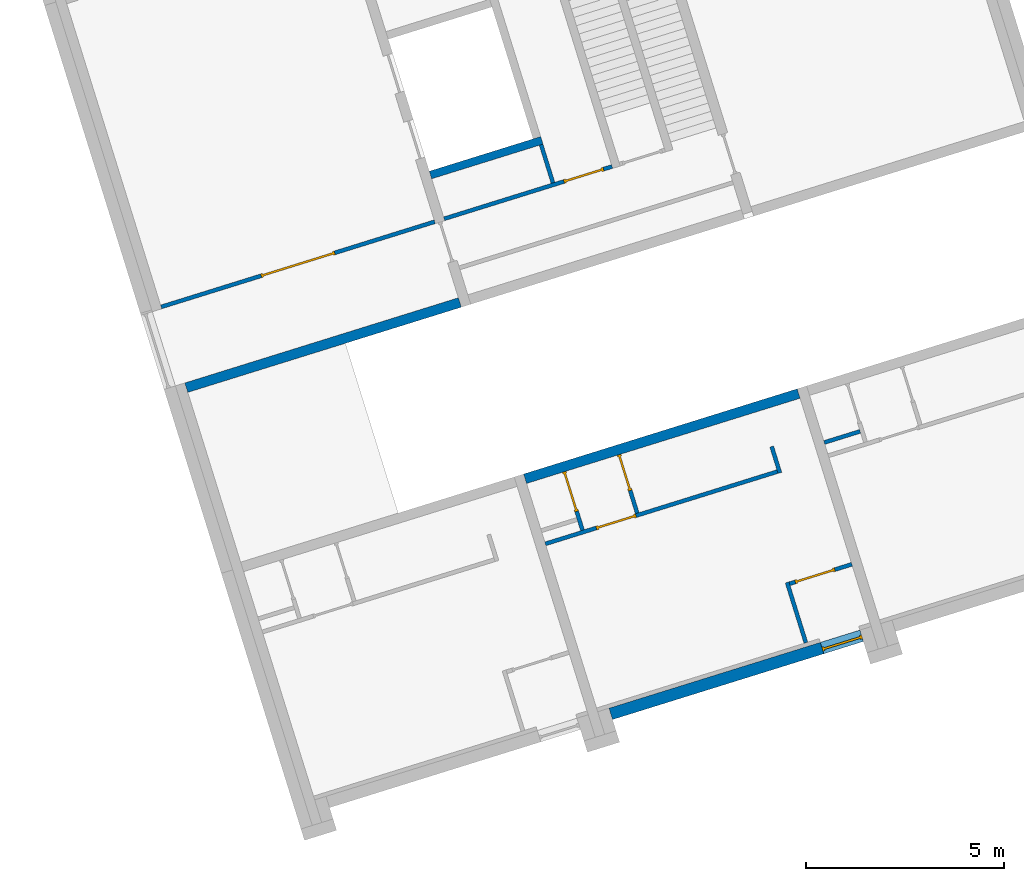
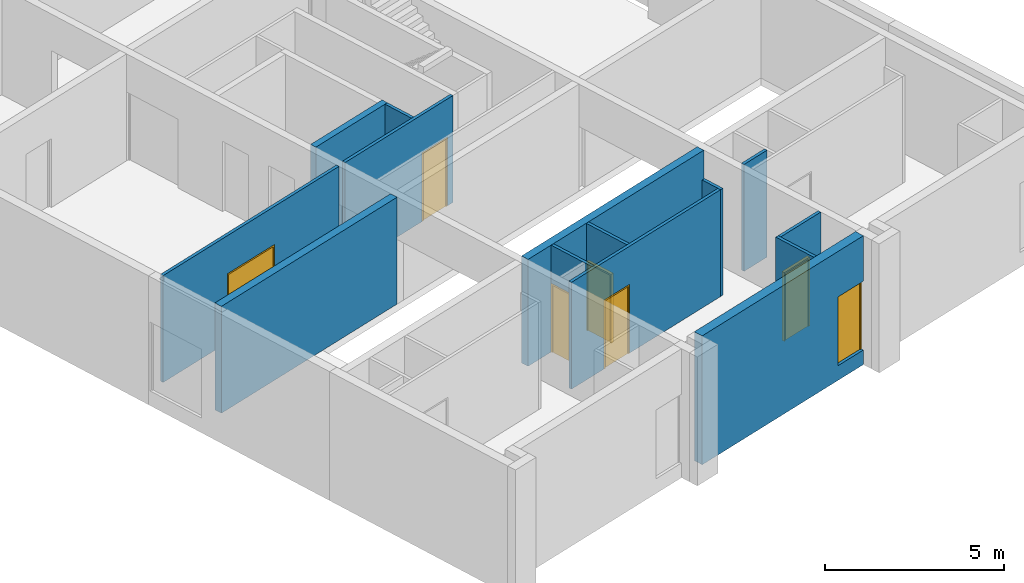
# One storey, part 2 of 10: 14 walls, 7 doors, 9 openings.
"""IFC4 building model written with IfcOpenShell, lengths in metres."""

from ifc_helpers import new_model, entity, si_unit, converted_unit, direction, frame, origin, place, context, subcontext, project, spatial, indexed_curve, outline, extrude, polygons, source, transform, mapped, material, constituent, constituent_set, type_object, type_shapes, element, fill, save


model = new_model("IFC4")

# Units and contexts
model_context = context("Model", 3, precision=1e-05, world=origin(), true_north=direction((6.12323399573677e-17, 1.0)))
body_context = subcontext(model_context, "Body", "Model", "MODEL_VIEW")
ifc_project = project(units=[si_unit("LENGTHUNIT", "METRE"), si_unit("AREAUNIT", "SQUARE_METRE"), si_unit("VOLUMEUNIT", "CUBIC_METRE"), converted_unit("PLANEANGLEUNIT", "DEGREE", entity("IfcPlaneAngleMeasure", 0.0174532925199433), si_unit("PLANEANGLEUNIT", "RADIAN"), dimensions=[0, 0, 0, 0, 0, 0, 0])], contexts=[model_context])

# Site, building, storey
site_placement = place(None, frame((13.1347999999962, 11.9886000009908, 0.0), z_axis=(0.0, 0.0, 1.0), x_axis=(0.954770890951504, 0.297342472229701, 0.0)))
site = spatial("IfcSite", under=ifc_project, at=site_placement, Name="Schiehaven", CompositionType="ELEMENT")
building_placement = place(site_placement, origin())
building = spatial("IfcBuilding", under=site, at=building_placement, Name="VORM huis", CompositionType="ELEMENT")
storey_placement = place(building_placement, origin())
storey = spatial("IfcBuildingStorey", under=building, at=storey_placement, Name="00 begane grond", CompositionType="ELEMENT", Elevation=0.0)

# Wall, opening, door
ifc_material_1 = material(Name="ntb_ntb_ntb", Category="Miscellaneous")
wall_type_1 = type_object("IfcWallType", Name="Basic Wall: 300mm_gen", PredefinedType="STANDARD")
wall_1_placement = place(storey_placement, frame((19.5750000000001, 0.824999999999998, -0.5), z_axis=(0.0, 0.0, 1.0), x_axis=(-1.0, 0.0, 0.0)))
wall_1 = element("IfcWall", 1, at=wall_1_placement, inside=storey, type_object=wall_type_1, material=ifc_material_1, Name="Gevelwand", ObjectType="Wand", PredefinedType="NOTDEFINED", context=body_context, shape_type="Tessellation", body=[
    polygons([(-1.23674201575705e-15, -0.15, 0.0), (6.64999999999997, -0.15, 0.0), (6.64999999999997, -0.15, 4.4), (-1.23674201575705e-15, -0.15, 4.4), (-1.23674201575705e-15, -0.15, 2.84999999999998), (1.04999999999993, -0.15, 2.84999999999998), (1.04999999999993, -0.15, 0.5), (-1.23674201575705e-15, -0.15, 0.5), (6.64999999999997, 0.15, 0.0), (-2.18896555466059e-15, 0.15, 0.0), (-2.1889655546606e-15, 0.15, 0.5), (1.04999999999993, 0.15, 0.5), (1.04999999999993, 0.15, 2.84999999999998), (-2.1889655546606e-15, 0.15, 2.84999999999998), (-2.18896555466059e-15, 0.15, 4.4), (6.64999999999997, 0.15, 4.4)], [[[1, 2, 3, 4, 5, 6, 7, 8]], [[9, 10, 11, 12, 13, 14, 15, 16]], [[2, 1, 10, 9]], [[4, 3, 16, 15]], [[10, 1, 8, 11]], [[3, 2, 9, 16]], [[6, 13, 12, 7]], [[7, 12, 11, 8]], [[13, 6, 5, 14]], [[4, 15, 14, 5]]], closed=True),
])
opening_1_placement = place(wall_1_placement, frame((0.0, -0.15, 0.5)))
opening_1 = element("IfcOpeningElement", 2, at=opening_1_placement, cuts=wall_1, Name="Woningtoegangsdeur", PredefinedType="OPENING", context=body_context, shape_type="SweptSolid", body=[
    extrude(outline(indexed_curve([(2.34999999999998, 1.05), (0.0, 1.05), (0.0, 1.62430069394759e-15), (2.34999999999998, 1.62430069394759e-15), (2.34999999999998, 1.05)], self_intersect=False)), frame((0.0, 0.0, 0.0), z_axis=(0.0, 1.0, 0.0), x_axis=(0.0, 0.0, 1.0)), (0.0, 0.0, 1.0), 0.3),
])
ifc_material_2 = material(Name="PD_a_buitenwandopeningen", Category="Miscellaneous")
ifc_constituent_1 = constituent(ifc_material_2, Name="PD_a_buitenwandopeningen", Category="Miscellaneous")
ifc_material_3 = material(Name="metaal_aluminium_ntb", Category="Miscellaneous")
ifc_constituent_2 = constituent(ifc_material_3, Name="metaal_aluminium_ntb", Category="Miscellaneous")
ifc_constituent_set_1 = constituent_set(constituents=[ifc_constituent_1, ifc_constituent_2])
door_type_1 = type_object("IfcDoorType", Name="31_DO_buitendeur enkel:woningtoegangsdeur", OperationType="REVOLVING", PredefinedType="DOOR")
shared_shape_1 = source(origin(), body_context, "Body", "SweptSolid", [
    extrude(outline(indexed_curve([(-1.16249999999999, -0.525000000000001), (1.18749999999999, -0.525), (1.18749999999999, 0.525000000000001), (-1.16249999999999, 0.525), (-1.16249999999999, 0.475), (1.13749999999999, 0.475), (1.13749999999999, -0.475), (-1.16249999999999, -0.475), (-1.16249999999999, -0.525000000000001)], self_intersect=False)), frame((0.525000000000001, 0.130000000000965, 1.16249999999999), z_axis=(0.0, 1.0, 0.0), x_axis=(0.0, 0.0, 1.0)), (0.0, 0.0, 1.0), 0.1),
    extrude(outline(indexed_curve([(-0.025, -0.475), (0.025, -0.475), (0.025, 0.475), (-0.025, 0.475), (-0.025, -0.475)], self_intersect=False)), frame((0.525000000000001, 0.180000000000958, 0.0), z_axis=(0.0, 0.0, 1.0), x_axis=(0.0, 1.0, 0.0)), (0.0, 0.0, 1.0), 2.29999999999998),
])
type_shapes(door_type_1, [shared_shape_1])
door_1_placement = place(opening_1_placement, origin())
door_1 = element("IfcDoor", 3, at=door_1_placement, inside=storey, type_object=door_type_1, material=ifc_constituent_set_1, Name="Woningtoegangsdeur", ObjectType="Deur", OperationType="REVOLVING", OverallHeight=2.34999999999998, OverallWidth=1.05, PredefinedType="DOOR", context=body_context, shape_type="MappedRepresentation", body=[
    mapped(shared_shape_1, transform((0.0, 0.0, 0.0), scale=1.0)),
])
fill(opening_1, door_1)

# Walls
ifc_material_4 = material(Name="beton_gewapend_prefab-element", Category="Miscellaneous")
wall_type_2 = type_object("IfcWallType", Name="Basic Wall:28_WA_skelet_wand 200mm_gen", PredefinedType="STANDARD")
wall_2_placement = place(storey_placement, frame((12.6250000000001, 15.2, 0.0)))
element("IfcWall", 4, at=wall_2_placement, inside=storey, type_object=wall_type_2, material=ifc_material_4, Name="Constructieve wand", ObjectType="Wand", PredefinedType="NOTDEFINED", context=body_context, shape_type="SweptSolid", body=[
    extrude(outline(indexed_curve([(2.95, 0.100000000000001), (-3.51397851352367e-16, 0.100000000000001), (3.51397851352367e-16, -0.100000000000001), (2.95, -0.100000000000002), (2.95, 0.100000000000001)], self_intersect=False)), origin(), (0.0, 0.0, 1.0), 3.65),
])
wall_type_3 = type_object("IfcWallType", Name="Basic Wall:22_WA_afbouw_binnenwand 250mm_gen", PredefinedType="STANDARD")
wall_3_placement = place(storey_placement, frame((12.3750000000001, 11.9, 0.0), z_axis=(0.0, 0.0, 1.0), x_axis=(-1.0, 0.0, 0.0)))
element("IfcWall", 5, at=wall_3_placement, inside=storey, type_object=wall_type_3, material=ifc_material_1, Name="Binnenwand", ObjectType="Wand", PredefinedType="NOTDEFINED", context=body_context, shape_type="SweptSolid", body=[
    extrude(outline(indexed_curve([(7.24999999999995, 0.125), (-1.96773443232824e-16, 0.125), (1.96773443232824e-16, -0.125), (7.24999999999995, -0.124999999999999), (7.24999999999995, 0.125)], self_intersect=False)), origin(), (0.0, 0.0, 1.0), 3.65),
])
wall_4_placement = place(storey_placement, frame((12.625, 7.15000000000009, 0.0)))
element("IfcWall", 6, at=wall_4_placement, inside=storey, type_object=wall_type_3, material=ifc_material_1, Name="Binnenwand", ObjectType="Wand", PredefinedType="NOTDEFINED", context=body_context, shape_type="SweptSolid", body=[
    extrude(outline(indexed_curve([(7.24999999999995, 0.124999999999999), (-1.92055213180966e-16, 0.125), (1.92055213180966e-16, -0.125), (7.24999999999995, -0.125000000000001), (7.24999999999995, 0.124999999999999)], self_intersect=False)), origin(), (0.0, 0.0, 1.0), 3.65),
])

# Wall, opening, door
wall_type_4 = type_object("IfcWallType", Name="Basic Wall:22_WA_afbouw_binnenwand 100mm_gen", PredefinedType="STANDARD")
wall_5_placement = place(storey_placement, frame((12.3750000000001, 14.0400000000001, 0.0), z_axis=(0.0, 0.0, 1.0), x_axis=(-1.0, 0.0, 0.0)))
wall_5 = element("IfcWall", 7, at=wall_5_placement, inside=storey, type_object=wall_type_4, material=ifc_material_1, Name="Binnenwand", ObjectType="Wand", PredefinedType="NOTDEFINED", context=body_context, shape_type="Tessellation", body=[
    polygons([(4.59999999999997, -0.0499999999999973, 2.34999999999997), (4.59999999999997, -0.0499999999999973, 0.0), (7.24999999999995, -0.0499999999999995, 0.0), (7.24999999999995, -0.0499999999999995, 3.65), (-6.12380031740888e-16, -0.0500000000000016, 3.65), (-6.12380031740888e-16, -0.0500000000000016, 0.0), (2.64999999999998, -0.0499999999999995, 0.0), (2.64999999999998, -0.0499999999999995, 2.34999999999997), (7.24999999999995, 0.0499999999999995, 0.0), (4.59999999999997, 0.0500000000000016, 0.0), (4.59999999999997, 0.0500000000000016, 2.34999999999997), (2.64999999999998, 0.0499999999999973, 2.34999999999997), (2.64999999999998, 0.0499999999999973, 0.0), (-7.61741015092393e-16, 0.0499999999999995, 0.0), (-7.61741015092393e-16, 0.0499999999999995, 3.65), (7.24999999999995, 0.0499999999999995, 3.65)], [[[1, 2, 3, 4, 5, 6, 7, 8]], [[9, 10, 11, 12, 13, 14, 15, 16]], [[7, 6, 14, 13]], [[4, 3, 9, 16]], [[5, 4, 16, 15]], [[6, 5, 15, 14]], [[13, 12, 8, 7]], [[11, 10, 2, 1]], [[12, 11, 1, 8]], [[3, 2, 10, 9]]], closed=True),
])
opening_2_placement = place(wall_5_placement, frame((2.64999999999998, -0.0500000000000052, 0.0)))
opening_2 = element("IfcOpeningElement", 8, at=opening_2_placement, cuts=wall_5, Name="Vluchtdeur", PredefinedType="OPENING", context=body_context, shape_type="SweptSolid", body=[
    extrude(outline(indexed_curve([(2.34999999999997, -2.12281255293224e-30), (2.34999999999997, 1.95), (0.0, 1.95), (0.0, -2.12281255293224e-30), (2.34999999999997, -2.12281255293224e-30)], self_intersect=False)), frame((0.0, 0.0, 0.0), z_axis=(0.0, 1.0, 0.0), x_axis=(0.0, 0.0, 1.0)), (0.0, 0.0, 1.0), 0.1),
])
ifc_material_5 = material(Name="PD_a_binnenwandopeningen", Category="Miscellaneous")
ifc_constituent_3 = constituent(ifc_material_5, Name="PD_a_binnenwandopeningen", Category="Miscellaneous")
ifc_constituent_4 = constituent(ifc_material_3, Name="metaal_aluminium_ntb", Category="Miscellaneous")
ifc_constituent_set_2 = constituent_set(constituents=[ifc_constituent_3, ifc_constituent_4])
door_type_2 = type_object("IfcDoorType", Name="32_DO_binnendeur dubbel:binnendeur zelfsluitend 30min", OperationType="NOTDEFINED", PredefinedType="DOOR")
shared_shape_2 = source(origin(), body_context, "Body", "SweptSolid", [
    extrude(outline(indexed_curve([(0.925, -1.16249999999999), (0.975, -1.16249999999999), (0.975, 1.18749999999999), (-0.975, 1.18749999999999), (-0.975, -1.16249999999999), (-0.925, -1.16249999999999), (-0.925, 1.13749999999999), (0.925, 1.13749999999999), (0.925, -1.16249999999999)], self_intersect=False)), frame((0.975000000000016, 0.100000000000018, 1.16249999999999), z_axis=(0.0, -1.0, 0.0), x_axis=(1.0, 0.0, 0.0)), (0.0, 0.0, 1.0), 0.1),
    extrude(outline(indexed_curve([(-0.462499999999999, -0.025), (0.462499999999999, -0.025), (0.462499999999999, 0.025), (-0.462499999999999, 0.025), (-0.462499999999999, -0.025)], self_intersect=False)), frame((0.512500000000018, 0.0499999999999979, 0.0)), (0.0, 0.0, 1.0), 2.29999999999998),
    extrude(outline(indexed_curve([(-0.4625, -0.025), (0.4625, -0.025), (0.4625, 0.025), (-0.4625, 0.025), (-0.4625, -0.025)], self_intersect=False)), frame((1.43750000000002, 0.050000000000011, 0.0)), (0.0, 0.0, 1.0), 2.29999999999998),
])
door_2_placement = place(opening_2_placement, origin())
door_2 = element("IfcDoor", 9, at=door_2_placement, inside=storey, type_object=door_type_2, material=ifc_constituent_set_2, Name="Vluchtdeur", ObjectType="Deur", OperationType="NOTDEFINED", OverallHeight=2.34999999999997, OverallWidth=1.95, PredefinedType="DOOR", context=body_context, shape_type="MappedRepresentation", body=[
    mapped(shared_shape_2, transform((0.0, 0.0, 0.0), scale=1.0)),
])
fill(opening_2, door_2)

# Wall
wall_6_placement = place(storey_placement, frame((15.5250000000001, 14.09, 0.0), z_axis=(0.0, 0.0, 1.0), x_axis=(0.0, 1.0, 0.0)))
element("IfcWall", 10, at=wall_6_placement, inside=storey, type_object=wall_type_4, material=ifc_material_1, Name="Binnenwand", ObjectType="Wand", PredefinedType="NOTDEFINED", context=body_context, shape_type="SweptSolid", body=[
    extrude(outline(indexed_curve([(1.01, 0.0499999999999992), (-3.06471829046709e-16, 0.0499999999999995), (3.06471829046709e-16, -0.0499999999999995), (1.01, -0.0499999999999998), (1.01, 0.0499999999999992)], self_intersect=False)), origin(), (0.0, 0.0, 1.0), 3.65),
])

# Wall, openings, door
wall_7_placement = place(storey_placement, frame((17.0750000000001, 14.04, 0.0), z_axis=(0.0, 0.0, 1.0), x_axis=(-1.0, 0.0, 0.0)))
wall_7 = element("IfcWall", 11, at=wall_7_placement, inside=storey, type_object=wall_type_4, material=ifc_material_1, Name="Binnenwand", ObjectType="Wand", PredefinedType="NOTDEFINED", context=body_context, shape_type="Tessellation", body=[
    polygons([(1.43084465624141e-15, -0.0499999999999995, 0.0), (0.224999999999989, -0.0499999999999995, 0.0), (0.224999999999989, -0.0499999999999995, 2.34999999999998), (1.27499999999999, -0.0499999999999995, 2.34999999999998), (1.27499999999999, -0.0499999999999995, 0.0), (1.50000000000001, -0.0499999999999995, 0.0), (1.60000000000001, -0.0499999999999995, 0.0), (4.45000000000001, -0.0499999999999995, 0.0), (4.45000000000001, -0.0499999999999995, 3.65), (1.60000000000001, -0.0499999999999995, 3.65), (1.50000000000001, -0.0499999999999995, 3.65), (1.43084465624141e-15, -0.0499999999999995, 3.65), (0.224999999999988, 0.0499999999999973, 2.34999999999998), (0.224999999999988, 0.0499999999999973, 0.0), (6.52153686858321e-16, 0.0499999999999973, 0.0), (6.52153686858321e-16, 0.0499999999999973, 3.65), (4.45000000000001, 0.0499999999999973, 3.65), (4.45000000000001, 0.0499999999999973, 0.0), (1.27499999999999, 0.0500000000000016, 0.0), (1.27499999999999, 0.0500000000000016, 2.34999999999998)], [[[1, 2, 3, 4, 5, 6, 7, 8, 9, 10, 11, 12]], [[13, 14, 15, 16, 17, 18, 19, 20]], [[15, 14, 2, 1]], [[9, 8, 18, 17]], [[12, 11, 10, 9, 17, 16]], [[1, 12, 16, 15]], [[4, 3, 13, 20]], [[3, 2, 14, 13]], [[5, 4, 20, 19]], [[19, 18, 8, 7, 6, 5]]], closed=True),
])
opening_3_placement = place(wall_7_placement, frame((0.224999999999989, -0.05, 0.0)))
opening_3 = element("IfcOpeningElement", 12, at=opening_3_placement, cuts=wall_7, Name="Vluchtdeur", PredefinedType="OPENING", context=body_context, shape_type="SweptSolid", body=[
    extrude(outline(indexed_curve([(2.34999999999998, 1.05), (0.0, 1.05), (0.0, 1.35358391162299e-15), (2.34999999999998, 1.35358391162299e-15), (2.34999999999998, 1.05)], self_intersect=False)), frame((0.0, 0.0, 0.0), z_axis=(0.0, 1.0, 0.0), x_axis=(0.0, 0.0, 1.0)), (0.0, 0.0, 1.0), 0.1),
])
opening_4_placement = place(wall_7_placement, frame((17.0750000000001, 14.04, 0.0), z_axis=(0.0, 0.0, 1.0), x_axis=(-1.0, 0.0, 0.0)))
element("IfcOpeningElement", 13, at=opening_4_placement, cuts=wall_7, Name="Vluchtdeur", PredefinedType="OPENING", context=body_context, shape_type="SweptSolid", body=[
    extrude(outline(indexed_curve([(-1.17499999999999, -0.525000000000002), (1.17499999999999, -0.525), (1.17499999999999, 0.525), (-1.17499999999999, 0.525), (-1.17499999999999, -0.525000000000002)], self_intersect=False)), frame((16.3250000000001, 15.614, 1.17499999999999), z_axis=(0.0, -1.0, 0.0), x_axis=(0.0, 0.0, -1.0)), (0.0, 0.0, 1.0), 3.048),
])
ifc_constituent_5 = constituent(ifc_material_5, Name="PD_a_binnenwandopeningen", Category="Miscellaneous")
ifc_constituent_6 = constituent(ifc_material_3, Name="metaal_aluminium_ntb", Category="Miscellaneous")
ifc_constituent_set_3 = constituent_set(constituents=[ifc_constituent_5, ifc_constituent_6])
door_type_3 = type_object("IfcDoorType", Name="32_DO_binnendeur enkel:binnendeur zelfsluitend 30min", OperationType="NOTDEFINED", PredefinedType="DOOR")
shared_shape_3 = source(origin(), body_context, "Body", "SweptSolid", [
    extrude(outline(indexed_curve([(-1.16249999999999, -0.525000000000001), (1.18749999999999, -0.525), (1.18749999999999, 0.525), (-1.16249999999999, 0.525), (-1.16249999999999, 0.475), (1.13749999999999, 0.475), (1.13749999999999, -0.475), (-1.16249999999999, -0.475), (-1.16249999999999, -0.525000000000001)], self_intersect=False)), frame((0.525000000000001, 0.0, 1.16249999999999), z_axis=(0.0, 1.0, 0.0), x_axis=(0.0, 0.0, 1.0)), (0.0, 0.0, 1.0), 0.1),
    extrude(outline(indexed_curve([(-0.025, -0.475), (0.025, -0.475), (0.025, 0.475), (-0.025, 0.475), (-0.025, -0.475)], self_intersect=False)), frame((0.525000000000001, 0.0499999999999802, 0.0), z_axis=(0.0, 0.0, 1.0), x_axis=(0.0, 1.0, 0.0)), (0.0, 0.0, 1.0), 2.29999999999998),
])
type_shapes(door_type_3, [shared_shape_3])
door_3_placement = place(opening_3_placement, origin())
door_3 = element("IfcDoor", 14, at=door_3_placement, inside=storey, type_object=door_type_3, material=ifc_constituent_set_3, Name="Vluchtdeur", ObjectType="Deur", OperationType="NOTDEFINED", OverallHeight=2.34999999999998, OverallWidth=1.05, PredefinedType="DOOR", context=body_context, shape_type="MappedRepresentation", body=[
    mapped(shared_shape_3, transform((0.0, 0.0, 0.0), scale=1.0)),
])
fill(opening_3, door_3)

# Wall, opening, door
wall_8_placement = place(storey_placement, frame((15.075, 5.47500000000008, 0.0), z_axis=(0.0, 0.0, 1.0), x_axis=(0.0, 1.0, 0.0)))
wall_8 = element("IfcWall", 15, at=wall_8_placement, inside=storey, type_object=wall_type_4, material=ifc_material_1, Name="Binnenwand", ObjectType="Wand", PredefinedType="NOTDEFINED", context=body_context, shape_type="Tessellation", body=[
    polygons([(1.54999999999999, -0.0500000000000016, 3.65), (0.0, -0.0500000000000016, 3.65), (0.0, -0.0500000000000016, 0.0), (0.600000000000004, -0.0500000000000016, 0.0), (0.600000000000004, -0.0500000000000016, 2.34999999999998), (1.54999999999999, -0.0500000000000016, 2.34999999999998), (0.0, 0.0499999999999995, 3.65), (1.54999999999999, 0.0499999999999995, 3.65), (1.54999999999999, 0.0499999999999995, 2.34999999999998), (0.600000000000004, 0.0499999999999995, 2.34999999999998), (0.600000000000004, 0.0499999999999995, 0.0), (0.0, 0.0499999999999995, 0.0), (0.0, 0.0499999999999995, 2.34999999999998)], [[[1, 2, 3, 4, 5, 6]], [[7, 8, 9, 10, 11, 12, 13]], [[3, 12, 11, 4]], [[8, 1, 6, 9]], [[2, 1, 8, 7]], [[10, 5, 4, 11]], [[5, 10, 9, 6]], [[3, 2, 7, 13, 12]]], closed=True),
])
opening_5_placement = place(wall_8_placement, frame((0.600000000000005, -0.049999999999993, 0.0)))
opening_5 = element("IfcOpeningElement", 16, at=opening_5_placement, cuts=wall_8, Name="Binnendeur", PredefinedType="OPENING", context=body_context, shape_type="SweptSolid", body=[
    extrude(outline(indexed_curve([(2.34999999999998, 0.950000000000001), (0.0, 0.950000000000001), (0.0, 2.70716782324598e-16), (2.34999999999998, 2.70716782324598e-16), (2.34999999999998, 0.950000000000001)], self_intersect=False)), frame((0.0, 0.0, 0.0), z_axis=(0.0, 1.0, 0.0), x_axis=(0.0, 0.0, 1.0)), (0.0, 0.0, 1.0), 0.1),
])
ifc_constituent_7 = constituent(ifc_material_5, Name="PD_a_binnenwandopeningen", Category="Miscellaneous")
ifc_constituent_8 = constituent(ifc_material_3, Name="metaal_aluminium_ntb", Category="Miscellaneous")
ifc_constituent_set_4 = constituent_set(constituents=[ifc_constituent_7, ifc_constituent_8])
door_type_4 = type_object("IfcDoorType", Name="32_DO_binnendeur enkel:kastdeur", OperationType="REVOLVING", PredefinedType="DOOR")
shared_shape_4 = source(origin(), body_context, "Body", "SweptSolid", [
    extrude(outline(indexed_curve([(-1.16249999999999, -0.475000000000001), (1.18749999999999, -0.475000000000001), (1.18749999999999, 0.475000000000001), (-1.16249999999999, 0.475000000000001), (-1.16249999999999, 0.425), (1.13749999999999, 0.425), (1.13749999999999, -0.425), (-1.16249999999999, -0.425), (-1.16249999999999, -0.475000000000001)], self_intersect=False)), frame((0.475000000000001, 0.0, 1.16249999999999), z_axis=(0.0, 1.0, 0.0), x_axis=(0.0, 0.0, 1.0)), (0.0, 0.0, 1.0), 0.1),
    extrude(outline(indexed_curve([(-0.0250000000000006, -0.425), (0.0249999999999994, -0.425), (0.0250000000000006, 0.425), (-0.0249999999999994, 0.425), (-0.0250000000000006, -0.425)], self_intersect=False)), frame((0.475000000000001, 0.0499999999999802, 0.0), z_axis=(0.0, 0.0, 1.0), x_axis=(0.0, 1.0, 0.0)), (0.0, 0.0, 1.0), 2.29999999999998),
])
type_shapes(door_type_4, [shared_shape_4])
door_4_placement = place(opening_5_placement, origin())
door_4 = element("IfcDoor", 17, at=door_4_placement, inside=storey, type_object=door_type_4, material=ifc_constituent_set_4, Name="Binnendeur", ObjectType="Deur", OperationType="REVOLVING", OverallHeight=2.34999999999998, OverallWidth=0.950000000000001, PredefinedType="DOOR", context=body_context, shape_type="MappedRepresentation", body=[
    mapped(shared_shape_4, transform((0.0, 0.0, 0.0), scale=1.0)),
])
fill(opening_5, door_4)

# Wall, openings, door
wall_9_placement = place(storey_placement, frame((18.7750000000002, 5.42500000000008, 0.0), z_axis=(0.0, 0.0, 1.0), x_axis=(-1.0, 0.0, 0.0)))
wall_9 = element("IfcWall", 18, at=wall_9_placement, inside=storey, type_object=wall_type_4, material=ifc_material_1, Name="Binnenwand", ObjectType="Wand", PredefinedType="NOTDEFINED", context=body_context, shape_type="Tessellation", body=[
    polygons([(3.05026480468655e-17, -0.0500000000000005, 0.0), (3.65000000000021, -0.0500000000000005, 0.0), (3.75000000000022, -0.0500000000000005, 0.0), (3.75000000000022, -0.0500000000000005, 2.34999999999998), (4.80000000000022, -0.0500000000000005, 2.34999999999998), (4.80000000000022, -0.0500000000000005, 0.0), (5.10000000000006, -0.0500000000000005, 0.0), (5.20000000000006, -0.0500000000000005, 0.0), (6.15000000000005, -0.0500000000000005, 0.0), (6.15000000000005, -0.0500000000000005, 3.65), (5.20000000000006, -0.0500000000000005, 3.65), (5.10000000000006, -0.0500000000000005, 3.65), (3.75000000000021, -0.0500000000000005, 3.65), (3.65000000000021, -0.0500000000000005, 3.65), (3.05026480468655e-17, -0.0500000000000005, 3.65), (3.75000000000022, 0.0499999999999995, 2.34999999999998), (3.75000000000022, 0.0499999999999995, 0.0), (2.99455220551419e-17, 0.0499999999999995, 0.0), (2.99455220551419e-17, 0.0499999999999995, 3.65), (6.15000000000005, 0.0499999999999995, 3.65), (6.15000000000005, 0.0499999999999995, 0.0), (4.80000000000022, 0.0499999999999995, 0.0), (4.80000000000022, 0.0499999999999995, 2.34999999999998)], [[[1, 2, 3, 4, 5, 6, 7, 8, 9, 10, 11, 12, 13, 14, 15]], [[16, 17, 18, 19, 20, 21, 22, 23]], [[18, 17, 3, 2, 1]], [[10, 9, 21, 20]], [[15, 14, 13, 12, 11, 10, 20, 19]], [[6, 5, 23, 22]], [[4, 3, 17, 16]], [[5, 4, 16, 23]], [[1, 15, 19, 18]], [[22, 21, 9, 8, 7, 6]]], closed=True),
])
opening_6_placement = place(wall_9_placement, frame((3.75000000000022, -0.0500000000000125, 0.0)))
opening_6 = element("IfcOpeningElement", 19, at=opening_6_placement, cuts=wall_9, Name="Binnendeur", PredefinedType="OPENING", context=body_context, shape_type="SweptSolid", body=[
    extrude(outline(indexed_curve([(2.34999999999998, 1.05), (0.0, 1.05), (0.0, 1.08286712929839e-15), (2.34999999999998, 1.08286712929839e-15), (2.34999999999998, 1.05)], self_intersect=False)), frame((0.0, 0.0, 0.0), z_axis=(0.0, 1.0, 0.0), x_axis=(0.0, 0.0, 1.0)), (0.0, 0.0, 1.0), 0.1),
])
opening_7_placement = place(wall_9_placement, frame((18.7750000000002, 5.42500000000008, 0.0), z_axis=(0.0, 0.0, 1.0), x_axis=(-1.0, 0.0, 0.0)))
element("IfcOpeningElement", 20, at=opening_7_placement, cuts=wall_9, Name="Binnendeur", PredefinedType="OPENING", context=body_context, shape_type="SweptSolid", body=[
    extrude(outline(indexed_curve([(-1.17499999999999, -0.525000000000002), (1.17499999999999, -0.525), (1.17499999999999, 0.525), (-1.17499999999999, 0.525), (-1.17499999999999, -0.525000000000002)], self_intersect=False)), frame((14.5, 6.99900000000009, 1.17499999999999), z_axis=(0.0, -1.0, 0.0), x_axis=(0.0, 0.0, -1.0)), (0.0, 0.0, 1.0), 3.048),
])
ifc_constituent_9 = constituent(ifc_material_5, Name="PD_a_binnenwandopeningen", Category="Miscellaneous")
ifc_constituent_10 = constituent(ifc_material_3, Name="metaal_aluminium_ntb", Category="Miscellaneous")
ifc_constituent_set_5 = constituent_set(constituents=[ifc_constituent_9, ifc_constituent_10])
door_type_5 = type_object("IfcDoorType", Name="32_DO_binnendeur enkel:binnendeur", OperationType="REVOLVING", PredefinedType="DOOR")
shared_shape_5 = source(origin(), body_context, "Body", "SweptSolid", [
    extrude(outline(indexed_curve([(-1.16249999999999, -0.525000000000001), (1.18749999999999, -0.525), (1.18749999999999, 0.525), (-1.16249999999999, 0.525), (-1.16249999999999, 0.475), (1.13749999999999, 0.475), (1.13749999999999, -0.475), (-1.16249999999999, -0.475), (-1.16249999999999, -0.525000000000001)], self_intersect=False)), frame((0.525000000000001, 0.0, 1.16249999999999), z_axis=(0.0, 1.0, 0.0), x_axis=(0.0, 0.0, 1.0)), (0.0, 0.0, 1.0), 0.1),
    extrude(outline(indexed_curve([(-0.025, -0.475), (0.025, -0.475), (0.025, 0.475), (-0.025, 0.475), (-0.025, -0.475)], self_intersect=False)), frame((0.525000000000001, 0.0499999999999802, 0.0), z_axis=(0.0, 0.0, 1.0), x_axis=(0.0, 1.0, 0.0)), (0.0, 0.0, 1.0), 2.29999999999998),
])
type_shapes(door_type_5, [shared_shape_5])
door_5_placement = place(opening_6_placement, origin())
door_5 = element("IfcDoor", 21, at=door_5_placement, inside=storey, type_object=door_type_5, material=ifc_constituent_set_5, Name="Binnendeur", ObjectType="Deur", OperationType="REVOLVING", OverallHeight=2.34999999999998, OverallWidth=1.05, PredefinedType="DOOR", context=body_context, shape_type="MappedRepresentation", body=[
    mapped(shared_shape_5, transform((0.0, 0.0, 0.0), scale=1.0)),
])
fill(opening_6, door_5)

# Wall, opening, door
wall_10_placement = place(storey_placement, frame((13.6250000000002, 7.02500000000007, 0.0), z_axis=(0.0, 0.0, 1.0), x_axis=(0.0, -1.0, 0.0)))
wall_10 = element("IfcWall", 22, at=wall_10_placement, inside=storey, type_object=wall_type_4, material=ifc_material_1, Name="Binnenwand", ObjectType="Wand", PredefinedType="NOTDEFINED", context=body_context, shape_type="Tessellation", body=[
    polygons([(1.55, -0.0500000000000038, 3.65), (1.29999999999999, -0.0500000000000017, 3.65), (1.19999999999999, -0.0500000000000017, 3.65), (0.0, -0.0500000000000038, 3.65), (0.0, -0.0500000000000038, 2.34999999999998), (1.04999999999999, -0.0500000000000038, 2.34999999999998), (1.04999999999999, -0.0500000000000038, 0.0), (1.19999999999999, -0.0500000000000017, 0.0), (1.29999999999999, -0.0500000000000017, 0.0), (1.55, -0.0500000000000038, 0.0), (0.0, 0.0499999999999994, 3.65), (1.55, 0.0499999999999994, 3.65), (1.55, 0.0499999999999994, 0.0), (1.04999999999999, 0.0499999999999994, 0.0), (1.04999999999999, 0.0499999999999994, 2.34999999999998), (0.0, 0.0499999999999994, 2.34999999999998)], [[[1, 2, 3, 4, 5, 6, 7, 8, 9, 10]], [[11, 12, 13, 14, 15, 16]], [[13, 10, 9, 8, 7, 14]], [[4, 3, 2, 1, 12, 11]], [[4, 11, 16, 5]], [[6, 15, 14, 7]], [[15, 6, 5, 16]], [[1, 10, 13, 12]]], closed=True),
])
opening_8_placement = place(wall_10_placement, frame((0.0, -0.0500000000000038, 0.0)))
opening_8 = element("IfcOpeningElement", 23, at=opening_8_placement, cuts=wall_10, Name="Binnendeur", PredefinedType="OPENING", context=body_context, shape_type="SweptSolid", body=[
    extrude(outline(indexed_curve([(2.34999999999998, 1.05), (0.0, 1.05), (0.0, 2.70716782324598e-16), (2.34999999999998, 2.70716782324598e-16), (2.34999999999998, 1.05)], self_intersect=False)), frame((0.0, 0.0, 0.0), z_axis=(0.0, 1.0, 0.0), x_axis=(0.0, 0.0, 1.0)), (0.0, 0.0, 1.0), 0.1),
])
ifc_constituent_11 = constituent(ifc_material_5, Name="PD_a_binnenwandopeningen", Category="Miscellaneous")
ifc_constituent_12 = constituent(ifc_material_3, Name="metaal_aluminium_ntb", Category="Miscellaneous")
ifc_constituent_set_6 = constituent_set(constituents=[ifc_constituent_11, ifc_constituent_12])
door_6_placement = place(opening_8_placement, origin())
door_6 = element("IfcDoor", 24, at=door_6_placement, inside=storey, type_object=door_type_5, material=ifc_constituent_set_6, Name="Binnendeur", ObjectType="Deur", OperationType="REVOLVING", OverallHeight=2.34999999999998, OverallWidth=1.05, PredefinedType="DOOR", context=body_context, shape_type="MappedRepresentation", body=[
    mapped(shared_shape_5, transform((0.0, 0.0, 0.0), scale=1.0)),
])
fill(opening_8, door_6)

# Wall
wall_11_placement = place(storey_placement, frame((18.8250000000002, 6.07500000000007, 0.0), z_axis=(0.0, 0.0, 1.0), x_axis=(0.0, -1.0, 0.0)))
element("IfcWall", 25, at=wall_11_placement, inside=storey, type_object=wall_type_4, material=ifc_material_1, Name="Binnenwand", ObjectType="Wand", PredefinedType="NOTDEFINED", context=body_context, shape_type="SweptSolid", body=[
    extrude(outline(indexed_curve([(0.699999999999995, 0.0499999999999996), (-1.66873505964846e-16, 0.0499999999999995), (1.66873505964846e-16, -0.0499999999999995), (0.699999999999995, -0.0499999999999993), (0.699999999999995, 0.0499999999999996)], self_intersect=False)), origin(), (0.0, 0.0, 1.0), 3.65),
])

# Wall, opening, door
wall_12_placement = place(storey_placement, frame((19.8750000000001, 2.62499999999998, 0.0), z_axis=(0.0, 0.0, 1.0), x_axis=(-1.0, 0.0, 0.0)))
wall_12 = element("IfcWall", 26, at=wall_12_placement, inside=storey, type_object=wall_type_4, material=ifc_material_1, Name="Binnenwand", ObjectType="Wand", PredefinedType="NOTDEFINED", context=body_context, shape_type="Tessellation", body=[
    polygons([(1.49999999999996, -0.0500000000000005, 2.34999999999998), (1.49999999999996, -0.0500000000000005, 0.0), (1.64999999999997, -0.0500000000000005, 0.0), (1.64999999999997, -0.0500000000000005, 3.65), (4.51747371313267e-16, -0.05, 3.65), (4.51747371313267e-16, -0.05, 0.0), (0.449999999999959, -0.05, 0.0), (0.449999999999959, -0.05, 2.34999999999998), (1.64999999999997, 0.05, 0.0), (1.49999999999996, 0.0499999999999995, 0.0), (1.49999999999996, 0.0499999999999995, 2.34999999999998), (0.449999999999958, 0.05, 2.34999999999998), (0.449999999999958, 0.05, 0.0), (-2.12836607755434e-16, 0.05, 0.0), (-2.12836607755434e-16, 0.05, 3.65), (1.64999999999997, 0.05, 3.65)], [[[1, 2, 3, 4, 5, 6, 7, 8]], [[9, 10, 11, 12, 13, 14, 15, 16]], [[7, 6, 14, 13]], [[5, 4, 16, 15]], [[6, 5, 15, 14]], [[13, 12, 8, 7]], [[11, 10, 2, 1]], [[12, 11, 1, 8]], [[4, 3, 9, 16]], [[3, 2, 10, 9]]], closed=True),
])
opening_9_placement = place(wall_12_placement, frame((0.449999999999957, -0.0500000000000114, 0.0)))
opening_9 = element("IfcOpeningElement", 27, at=opening_9_placement, cuts=wall_12, Name="Binnendeur", PredefinedType="OPENING", context=body_context, shape_type="SweptSolid", body=[
    extrude(outline(indexed_curve([(2.34999999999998, 1.35358391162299e-15), (2.34999999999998, 1.05), (0.0, 1.05), (0.0, 1.35358391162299e-15), (2.34999999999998, 1.35358391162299e-15)], self_intersect=False)), frame((0.0, 0.0, 0.0), z_axis=(0.0, 1.0, 0.0), x_axis=(0.0, 0.0, 1.0)), (0.0, 0.0, 1.0), 0.1),
])
ifc_constituent_13 = constituent(ifc_material_5, Name="PD_a_binnenwandopeningen", Category="Miscellaneous")
ifc_constituent_14 = constituent(ifc_material_3, Name="metaal_aluminium_ntb", Category="Miscellaneous")
ifc_constituent_set_7 = constituent_set(constituents=[ifc_constituent_13, ifc_constituent_14])
shared_shape_6 = source(origin(), body_context, "Body", "SweptSolid", [
    extrude(outline(indexed_curve([(0.475, -1.16249999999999), (0.525, -1.16249999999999), (0.525, 1.18749999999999), (-0.525, 1.18749999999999), (-0.525, -1.16249999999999), (-0.475, -1.16249999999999), (-0.475, 1.13749999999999), (0.475, 1.13749999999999), (0.475, -1.16249999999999)], self_intersect=False)), frame((0.525000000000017, 0.100000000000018, 1.16249999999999), z_axis=(0.0, -1.0, 0.0), x_axis=(1.0, 0.0, 0.0)), (0.0, 0.0, 1.0), 0.1),
    extrude(outline(indexed_curve([(-0.475, -0.025), (0.475, -0.025), (0.475, 0.025), (-0.475, 0.025), (-0.475, -0.025)], self_intersect=False)), frame((0.525000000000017, 0.0499999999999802, 0.0)), (0.0, 0.0, 1.0), 2.29999999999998),
])
door_7_placement = place(opening_9_placement, origin())
door_7 = element("IfcDoor", 28, at=door_7_placement, inside=storey, type_object=door_type_5, material=ifc_constituent_set_7, Name="Binnendeur", ObjectType="Deur", OperationType="REVOLVING", OverallHeight=2.34999999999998, OverallWidth=1.05, PredefinedType="DOOR", context=body_context, shape_type="MappedRepresentation", body=[
    mapped(shared_shape_6, transform((0.0, 0.0, 0.0), scale=1.0)),
])
fill(opening_9, door_7)

# Walls
wall_13_placement = place(storey_placement, frame((18.1750000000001, 2.67499999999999, 0.0), z_axis=(0.0, 0.0, 1.0), x_axis=(0.0, -1.0, 0.0)))
element("IfcWall", 29, at=wall_13_placement, inside=storey, type_object=wall_type_4, material=ifc_material_1, Name="Binnenwand", ObjectType="Wand", PredefinedType="NOTDEFINED", context=body_context, shape_type="SweptSolid", body=[
    extrude(outline(indexed_curve([(1.6, 0.0500000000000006), (-2.37762306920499e-16, 0.0499999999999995), (2.37762306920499e-16, -0.0499999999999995), (1.6, -0.0499999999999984), (1.6, 0.0500000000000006)], self_intersect=False)), origin(), (0.0, 0.0, 1.0), 3.65),
])
wall_14_placement = place(storey_placement, frame((20.1250000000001, 5.77500000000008, 0.0)))
element("IfcWall", 30, at=wall_14_placement, inside=storey, type_object=wall_type_4, material=ifc_material_1, Name="Binnenwand", ObjectType="Wand", PredefinedType="NOTDEFINED", context=body_context, shape_type="SweptSolid", body=[
    extrude(outline(indexed_curve([(0.950000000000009, 0.0499999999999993), (-1.02974192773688e-16, 0.0499999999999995), (1.02974192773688e-16, -0.0499999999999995), (0.950000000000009, -0.0499999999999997), (0.950000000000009, 0.0499999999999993)], self_intersect=False)), origin(), (0.0, 0.0, 1.0), 3.65),
])

save(model, "model.ifc")
